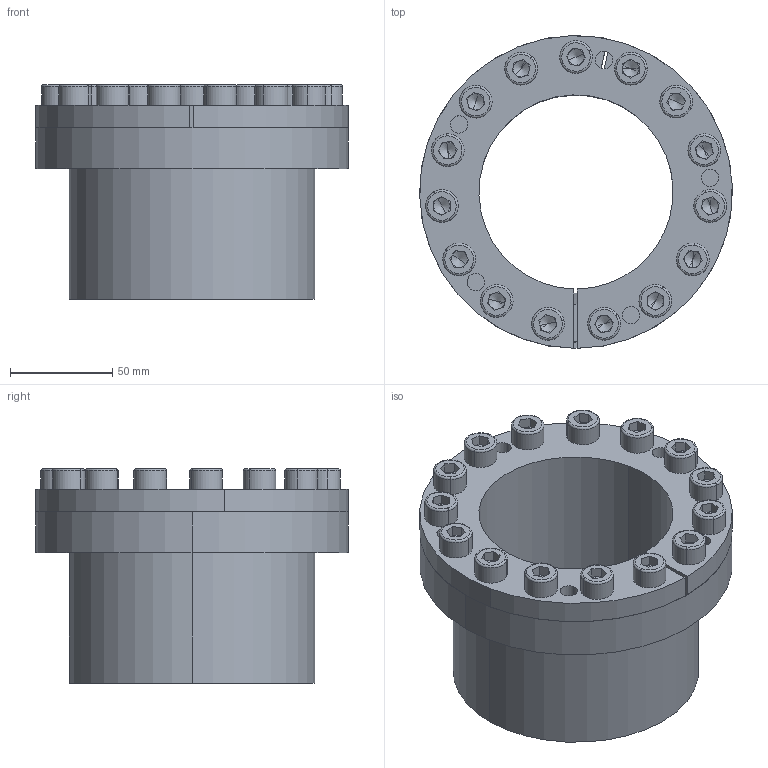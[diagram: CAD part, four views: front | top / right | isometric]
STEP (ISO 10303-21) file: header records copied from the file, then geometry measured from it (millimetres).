
FILE_DESCRIPTION (( 'STEP AP214' ), '1' );
FILE_NAME ('CONEX-B-95x120.step', '2013-04-04T12:42:37', ( 'Pc' ), ( '' ), 'SwSTEP 2.0', 'SolidWorks 2013', '' );
FILE_SCHEMA (( 'AUTOMOTIVE_DESIGN' ));
Length unit declared in the file: millimetre
Products named in the file (1): CONEX-B-95x120
Bounding box: 153 x 153 x 104.92 mm (x, y, z)
Volume: 584754 mm3; surface area: 208726.5 mm2
Topology: 18 solids, 18 shells, 515 faces, 1178 edges, 699 vertices
Faces by surface type: plane 237, cylinder 146, torus 66, cone 66
Entity records: 20272 total; most frequent: DIRECTION 2726, CARTESIAN_POINT 2411, ORIENTED_EDGE 2296, EDGE_CURVE 1148, AXIS2_PLACEMENT_3D 1070, VERTEX_POINT 699, EDGE_LOOP 617, LINE 586
